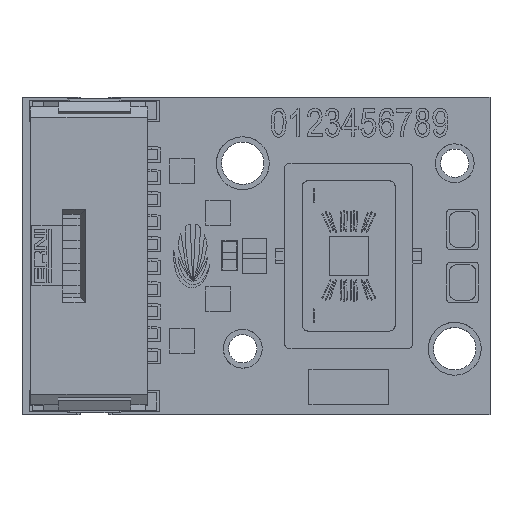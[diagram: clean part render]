
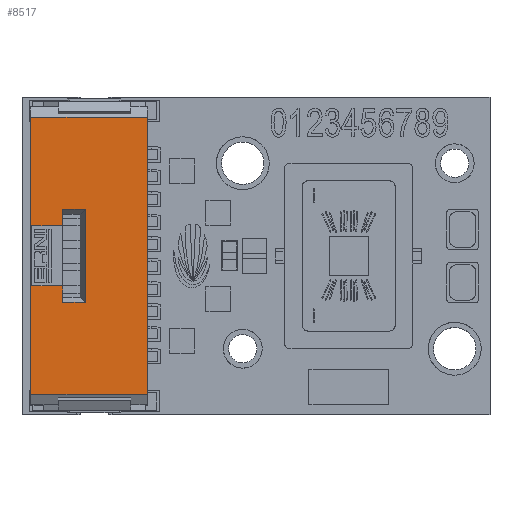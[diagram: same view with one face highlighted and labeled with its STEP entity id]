
A CAD part, top view. The second image highlights one B-rep face of the part: STEP entity #8517.
In plain terms, the highlighted planar face has unit normal (0, 0, 1).
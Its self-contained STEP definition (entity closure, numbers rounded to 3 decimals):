
#279=FACE_BOUND('',#11553,.T.);
#8517=ADVANCED_FACE('',(#9903,#279),#27440,.T.);
#9903=FACE_OUTER_BOUND('',#11552,.T.);
#11552=EDGE_LOOP('',(#16482,#16483,#16484,#16485));
#11553=EDGE_LOOP('',(#16486,#16487,#16488,#16489,#16490,#16491,#16492,#16493));
#16482=ORIENTED_EDGE('',*,*,#21088,.T.);
#16483=ORIENTED_EDGE('',*,*,#21089,.T.);
#16484=ORIENTED_EDGE('',*,*,#21090,.T.);
#16485=ORIENTED_EDGE('',*,*,#21091,.T.);
#16486=ORIENTED_EDGE('',*,*,#21099,.T.);
#16487=ORIENTED_EDGE('',*,*,#21092,.T.);
#16488=ORIENTED_EDGE('',*,*,#21093,.T.);
#16489=ORIENTED_EDGE('',*,*,#21094,.T.);
#16490=ORIENTED_EDGE('',*,*,#21095,.T.);
#16491=ORIENTED_EDGE('',*,*,#21096,.T.);
#16492=ORIENTED_EDGE('',*,*,#21097,.T.);
#16493=ORIENTED_EDGE('',*,*,#21098,.T.);
#21088=EDGE_CURVE('',#26239,#26240,#23606,.T.);
#21089=EDGE_CURVE('',#26240,#26241,#23607,.T.);
#21090=EDGE_CURVE('',#26241,#26242,#23608,.T.);
#21091=EDGE_CURVE('',#26242,#26239,#23609,.T.);
#21092=EDGE_CURVE('',#26243,#26244,#23610,.T.);
#21093=EDGE_CURVE('',#26244,#26245,#23611,.T.);
#21094=EDGE_CURVE('',#26245,#26246,#23612,.T.);
#21095=EDGE_CURVE('',#26246,#26247,#23613,.T.);
#21096=EDGE_CURVE('',#26247,#26248,#23614,.T.);
#21097=EDGE_CURVE('',#26248,#26249,#23615,.T.);
#21098=EDGE_CURVE('',#26249,#26250,#23616,.T.);
#21099=EDGE_CURVE('',#26250,#26243,#23617,.T.);
#23606=B_SPLINE_CURVE_WITH_KNOTS('',1,(#49469,#49470),.UNSPECIFIED.,.F.,
 .F.,(2,2),(0.,6.6),.UNSPECIFIED.);
#23607=B_SPLINE_CURVE_WITH_KNOTS('',1,(#49471,#49472),.UNSPECIFIED.,.F.,
 .F.,(2,2),(0.,15.68),.UNSPECIFIED.);
#23608=B_SPLINE_CURVE_WITH_KNOTS('',1,(#49473,#49474),.UNSPECIFIED.,.F.,
 .F.,(2,2),(0.,6.6),.UNSPECIFIED.);
#23609=B_SPLINE_CURVE_WITH_KNOTS('',1,(#49475,#49476),.UNSPECIFIED.,.F.,
 .F.,(2,2),(0.,15.68),.UNSPECIFIED.);
#23610=B_SPLINE_CURVE_WITH_KNOTS('',1,(#49477,#49478),.UNSPECIFIED.,.F.,
 .F.,(2,2),(0.,1.289),.UNSPECIFIED.);
#23611=B_SPLINE_CURVE_WITH_KNOTS('',1,(#49479,#49480),.UNSPECIFIED.,.F.,
 .F.,(2,2),(0.,0.939),.UNSPECIFIED.);
#23612=B_SPLINE_CURVE_WITH_KNOTS('',1,(#49481,#49482),.UNSPECIFIED.,.F.,
 .F.,(2,2),(0.,1.75),.UNSPECIFIED.);
#23613=B_SPLINE_CURVE_WITH_KNOTS('',1,(#49483,#49484),.UNSPECIFIED.,.F.,
 .F.,(2,2),(0.,3.4),.UNSPECIFIED.);
#23614=B_SPLINE_CURVE_WITH_KNOTS('',1,(#49485,#49486),.UNSPECIFIED.,.F.,
 .F.,(2,2),(0.,1.75),.UNSPECIFIED.);
#23615=B_SPLINE_CURVE_WITH_KNOTS('',1,(#49487,#49488),.UNSPECIFIED.,.F.,
 .F.,(2,2),(0.,0.939),.UNSPECIFIED.);
#23616=B_SPLINE_CURVE_WITH_KNOTS('',1,(#49489,#49490),.UNSPECIFIED.,.F.,
 .F.,(2,2),(0.,1.289),.UNSPECIFIED.);
#23617=B_SPLINE_CURVE_WITH_KNOTS('',1,(#49491,#49492),.UNSPECIFIED.,.F.,
 .F.,(2,2),(0.,5.277),.UNSPECIFIED.);
#26239=VERTEX_POINT('',#48713);
#26240=VERTEX_POINT('',#48714);
#26241=VERTEX_POINT('',#48715);
#26242=VERTEX_POINT('',#48716);
#26243=VERTEX_POINT('',#48717);
#26244=VERTEX_POINT('',#48718);
#26245=VERTEX_POINT('',#48719);
#26246=VERTEX_POINT('',#48720);
#26247=VERTEX_POINT('',#48721);
#26248=VERTEX_POINT('',#48722);
#26249=VERTEX_POINT('',#48723);
#26250=VERTEX_POINT('',#48724);
#27440=PLANE('',#28871);
#28871=AXIS2_PLACEMENT_3D('',#48174,#30154,$);
#30154=DIRECTION('',(0.,0.,1.));
#48174=CARTESIAN_POINT('',(-10.74,9.408,3.527));
#48713=CARTESIAN_POINT('',(-11.4,7.84,3.527));
#48714=CARTESIAN_POINT('',(-18.,7.84,3.527));
#48715=CARTESIAN_POINT('',(-18.,-7.84,3.527));
#48716=CARTESIAN_POINT('',(-11.4,-7.84,3.527));
#48717=CARTESIAN_POINT('',(-14.911,-2.639,3.527));
#48718=CARTESIAN_POINT('',(-16.2,-2.639,3.527));
#48719=CARTESIAN_POINT('',(-16.2,-1.7,3.527));
#48720=CARTESIAN_POINT('',(-17.95,-1.7,3.527));
#48721=CARTESIAN_POINT('',(-17.95,1.7,3.527));
#48722=CARTESIAN_POINT('',(-16.2,1.7,3.527));
#48723=CARTESIAN_POINT('',(-16.2,2.639,3.527));
#48724=CARTESIAN_POINT('',(-14.911,2.639,3.527));
#49469=CARTESIAN_POINT('',(-11.4,7.84,3.527));
#49470=CARTESIAN_POINT('',(-18.,7.84,3.527));
#49471=CARTESIAN_POINT('',(-18.,7.84,3.527));
#49472=CARTESIAN_POINT('',(-18.,-7.84,3.527));
#49473=CARTESIAN_POINT('',(-18.,-7.84,3.527));
#49474=CARTESIAN_POINT('',(-11.4,-7.84,3.527));
#49475=CARTESIAN_POINT('',(-11.4,-7.84,3.527));
#49476=CARTESIAN_POINT('',(-11.4,7.84,3.527));
#49477=CARTESIAN_POINT('',(-14.911,-2.639,3.527));
#49478=CARTESIAN_POINT('',(-16.2,-2.639,3.527));
#49479=CARTESIAN_POINT('',(-16.2,-2.639,3.527));
#49480=CARTESIAN_POINT('',(-16.2,-1.7,3.527));
#49481=CARTESIAN_POINT('',(-16.2,-1.7,3.527));
#49482=CARTESIAN_POINT('',(-17.95,-1.7,3.527));
#49483=CARTESIAN_POINT('',(-17.95,-1.7,3.527));
#49484=CARTESIAN_POINT('',(-17.95,1.7,3.527));
#49485=CARTESIAN_POINT('',(-17.95,1.7,3.527));
#49486=CARTESIAN_POINT('',(-16.2,1.7,3.527));
#49487=CARTESIAN_POINT('',(-16.2,1.7,3.527));
#49488=CARTESIAN_POINT('',(-16.2,2.639,3.527));
#49489=CARTESIAN_POINT('',(-16.2,2.639,3.527));
#49490=CARTESIAN_POINT('',(-14.911,2.639,3.527));
#49491=CARTESIAN_POINT('',(-14.911,2.639,3.527));
#49492=CARTESIAN_POINT('',(-14.911,-2.639,3.527));
